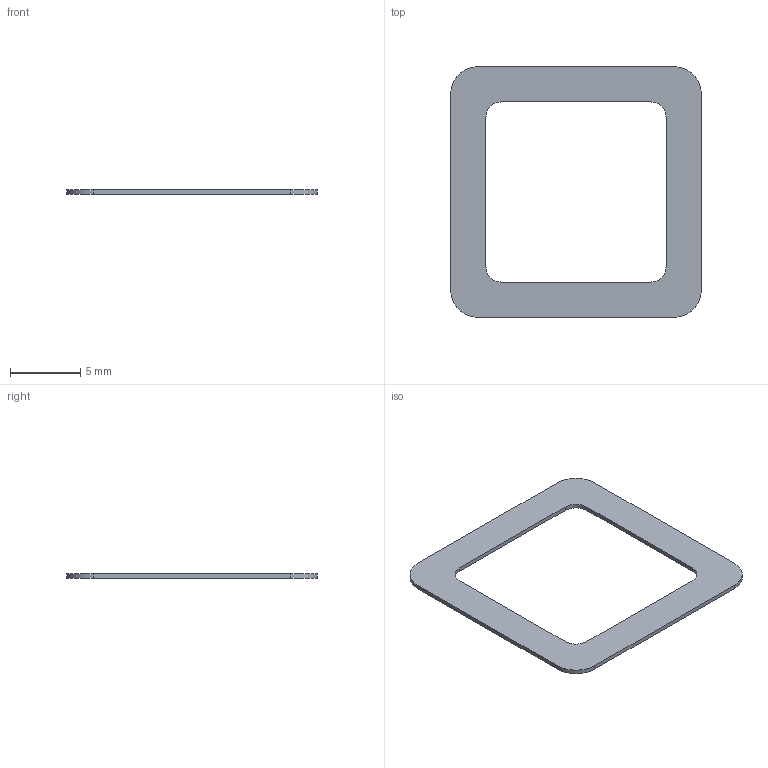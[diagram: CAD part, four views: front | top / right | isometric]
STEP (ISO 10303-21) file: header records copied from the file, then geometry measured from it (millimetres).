
FILE_DESCRIPTION(('Open CASCADE Model'),'2;1');
FILE_NAME('Open CASCADE Shape Model','2026-09-08T16:17:03',('Author'),( 'Open CASCADE'),'Open CASCADE STEP processor 7.7','Open CASCADE 7.7' ,'Unknown');
FILE_SCHEMA(('AUTOMOTIVE_DESIGN { 1 0 10303 214 1 1 1 1 }'));
Length unit declared in the file: millimetre
Products named in the file (1): Open CASCADE STEP translator 7.7 1
Bounding box: 17.8 x 17.8 x 0.3 mm (x, y, z)
Volume: 45.3 mm3; surface area: 337.1 mm2
Topology: 1 solids, 1 shells, 18 faces, 48 edges, 32 vertices
Faces by surface type: plane 10, cylinder 8
Entity records: 1218 total; most frequent: CARTESIAN_POINT 219, DIRECTION 194, LINE 112, VECTOR 112, ORIENTED_EDGE 96, PCURVE 96, DEFINITIONAL_REPRESENTATION 96, EDGE_CURVE 48
